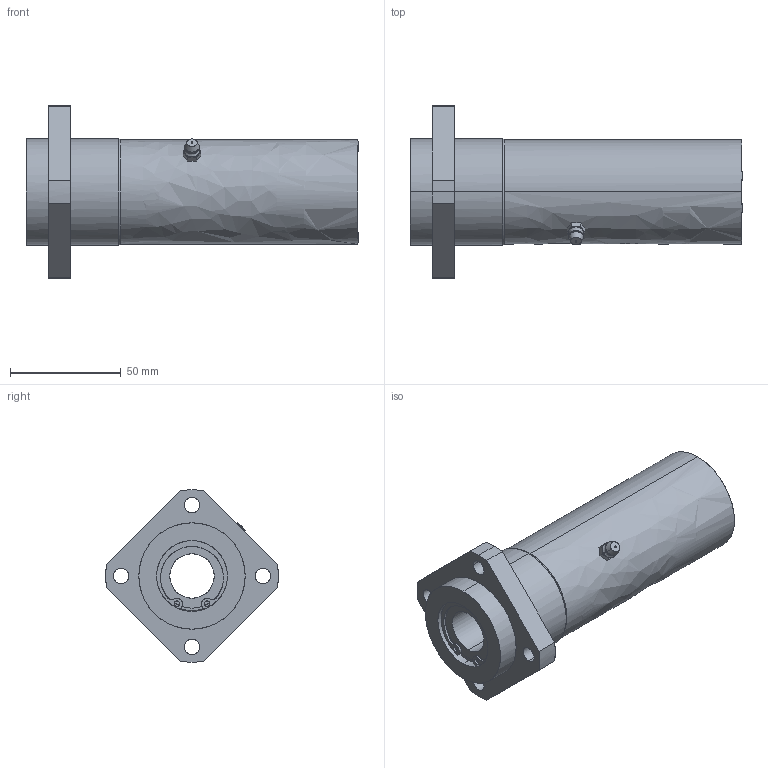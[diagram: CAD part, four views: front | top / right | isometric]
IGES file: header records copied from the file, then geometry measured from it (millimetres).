
Global section: file name: No Iges File Name specified; native system: AutoDesk Inventor R10; preprocessor: AutoDesk Inventor Iges Exporter R10; author: No Author specified; organization: No Organization specified; date: 20101214.141124; units: millimetre
Bounding box: 150 x 77.99 x 78 mm (x, y, z)
Surface area: 44762.9 mm2 (no closed solid volume)
Topology: 0 solids, 0 shells, 162 faces, 1119 edges, 1117 vertices
Faces by surface type: bspline 162
